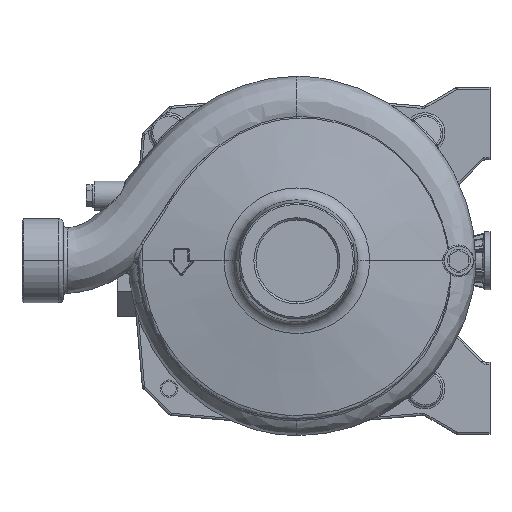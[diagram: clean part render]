
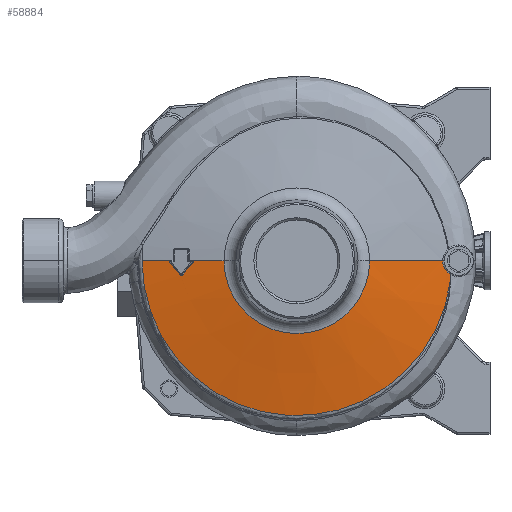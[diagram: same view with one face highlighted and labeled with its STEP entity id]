
A CAD part, left-side view. The second image highlights one B-rep face of the part: STEP entity #58884.
In plain terms, the highlighted conical face has half-angle 80 degrees and reference radius 78.683 mm.
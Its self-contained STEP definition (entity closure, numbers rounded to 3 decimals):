
#40440=CARTESIAN_POINT('',(-13.857,-106.12,
16.811));
#44654=DIRECTION('',(0.,0.985,0.174));
#44655=VECTOR('',#44654,51.261);
#44656=CARTESIAN_POINT('',(0.,-100.826,
17.903));
#44657=LINE('',#44656,#44655);
#44734=CARTESIAN_POINT('',(0.,88.098,
20.147));
#45054=CARTESIAN_POINT('',(0.,-100.826,
17.903));
#45055=CARTESIAN_POINT('',(-0.742,-100.827,
17.903));
#45056=CARTESIAN_POINT('',(-2.183,-100.971,
17.875));
#45057=CARTESIAN_POINT('',(-4.322,-101.634,
17.746));
#45058=CARTESIAN_POINT('',(-6.242,-102.687,
17.543));
#45059=CARTESIAN_POINT('',(-7.963,-104.141,
17.266));
#45060=CARTESIAN_POINT('',(-8.884,-105.315,
17.046));
#45061=CARTESIAN_POINT('',(-9.292,-105.964,
16.926));
#45063=CARTESIAN_POINT('',(-9.292,-105.964,
16.926));
#45064=CARTESIAN_POINT('',(-9.561,-105.973,
16.92));
#45065=CARTESIAN_POINT('',(-10.083,-105.99,
16.908));
#45066=CARTESIAN_POINT('',(-10.812,-106.013,
16.892));
#45067=CARTESIAN_POINT('',(-11.493,-106.035,
16.875));
#45068=CARTESIAN_POINT('',(-12.13,-106.055,
16.859));
#45069=CARTESIAN_POINT('',(-12.726,-106.076,
16.844));
#45070=CARTESIAN_POINT('',(-13.281,-106.096,
16.828));
#45071=CARTESIAN_POINT('',(-13.665,-106.112,
16.817));
#45072=CARTESIAN_POINT('',(-13.857,-106.12,
16.811));
#45074=CARTESIAN_POINT('',(0.,0.,16.811));
#45075=DIRECTION('',(0.,0.,1.));
#45076=DIRECTION('',(0.,1.,0.));
#45077=AXIS2_PLACEMENT_3D('',#45074,#45075,#45076);
#45079=DIRECTION('',(0.,-0.985,0.174));
#45080=VECTOR('',#45079,19.215);
#45081=CARTESIAN_POINT('',(0.,107.021,
16.811));
#45082=LINE('',#45081,#45080);
#45083=CARTESIAN_POINT('',(0.,88.098,
20.147));
#45084=CARTESIAN_POINT('',(-0.072,88.139,
20.14));
#45085=CARTESIAN_POINT('',(-0.221,88.203,
20.129));
#45086=CARTESIAN_POINT('',(-0.469,88.242,
20.122));
#45087=CARTESIAN_POINT('',(-0.715,88.219,
20.126));
#45088=CARTESIAN_POINT('',(-0.947,88.137,
20.14));
#45089=CARTESIAN_POINT('',(-1.08,88.05,
20.155));
#45090=CARTESIAN_POINT('',(-1.142,87.998,
20.164));
#45092=CARTESIAN_POINT('',(-1.142,87.998,
20.164));
#45093=CARTESIAN_POINT('',(-2.142,87.158,
20.31));
#45094=CARTESIAN_POINT('',(-4.119,85.497,
20.592));
#45095=CARTESIAN_POINT('',(-7.021,83.06,
20.987));
#45096=CARTESIAN_POINT('',(-8.916,81.468,
21.232));
#45097=CARTESIAN_POINT('',(-9.854,80.68,
21.35));
#45099=CARTESIAN_POINT('',(-9.854,80.68,
21.35));
#45100=CARTESIAN_POINT('',(-9.912,80.632,
21.357));
#45101=CARTESIAN_POINT('',(-10.016,80.523,
21.374));
#45102=CARTESIAN_POINT('',(-10.14,80.311,
21.408));
#45103=CARTESIAN_POINT('',(-10.21,80.069,
21.449));
#45104=CARTESIAN_POINT('',(-10.217,79.813,
21.493));
#45105=CARTESIAN_POINT('',(-10.158,79.56,
21.539));
#45106=CARTESIAN_POINT('',(-10.035,79.328,
21.582));
#45107=CARTESIAN_POINT('',(-9.92,79.203,
21.607));
#45108=CARTESIAN_POINT('',(-9.854,79.148,
21.618));
#45110=CARTESIAN_POINT('',(-9.854,79.148,
21.618));
#45111=CARTESIAN_POINT('',(-8.833,78.29,
21.79));
#45112=CARTESIAN_POINT('',(-6.827,76.605,
22.123));
#45113=CARTESIAN_POINT('',(-3.931,74.172,
22.588));
#45114=CARTESIAN_POINT('',(-2.061,72.601,
22.876));
#45115=CARTESIAN_POINT('',(-1.141,71.828,
23.015));
#45117=CARTESIAN_POINT('',(-1.141,71.828,
23.015));
#45118=CARTESIAN_POINT('',(-1.103,71.796,
23.02));
#45119=CARTESIAN_POINT('',(-1.019,71.735,
23.031));
#45120=CARTESIAN_POINT('',(-0.861,71.656,
23.046));
#45121=CARTESIAN_POINT('',(-0.672,71.602,
23.056));
#45122=CARTESIAN_POINT('',(-0.453,71.587,
23.059));
#45123=CARTESIAN_POINT('',(-0.219,71.625,
23.052));
#45124=CARTESIAN_POINT('',(-0.072,71.687,
23.041));
#45125=CARTESIAN_POINT('',(0.,71.728,
23.034));
#45127=DIRECTION('',(0.,-0.985,0.174));
#45128=VECTOR('',#45127,21.714);
#45129=CARTESIAN_POINT('',(0.,71.728,
23.034));
#45130=LINE('',#45129,#45128);
#45131=CARTESIAN_POINT('',(0.,0.,26.804));
#45132=DIRECTION('',(0.,0.,-1.));
#45133=DIRECTION('',(0.,-1.,0.));
#45134=AXIS2_PLACEMENT_3D('',#45131,#45132,#45133);
#46421=CARTESIAN_POINT('',(0.,-50.344,26.804));
#46422=CARTESIAN_POINT('',(0.,50.344,26.804));
#46423=VERTEX_POINT('',#46421);
#46424=VERTEX_POINT('',#46422);
#46497=VERTEX_POINT('',#45117);
#46498=VERTEX_POINT('',#45125);
#46523=VERTEX_POINT('',#44734);
#46525=VERTEX_POINT('',#45090);
#46527=VERTEX_POINT('',#45097);
#46529=VERTEX_POINT('',#45108);
#46531=CARTESIAN_POINT('',(0.,107.021,
16.811));
#46532=VERTEX_POINT('',#46531);
#46925=CARTESIAN_POINT('',(0.,-100.826,
17.903));
#46927=VERTEX_POINT('',#46925);
#46930=VERTEX_POINT('',#45061);
#47277=VERTEX_POINT('',#40440);
#58859=CARTESIAN_POINT('',(0.,0.,21.808));
#58860=DIRECTION('',(0.,0.,-1.));
#58861=DIRECTION('',(0.,-1.,0.));
#58862=AXIS2_PLACEMENT_3D('',#58859,#58860,#58861);
#58863=CONICAL_SURFACE('',#58862,78.683,80.);
#58864=ORIENTED_EDGE('',*,*,#58342,.T.);
#58865=ORIENTED_EDGE('',*,*,#47947,.T.);
#58866=ORIENTED_EDGE('',*,*,#48115,.F.);
#58867=ORIENTED_EDGE('',*,*,#58246,.T.);
#58869=ORIENTED_EDGE('',*,*,#58868,.T.);
#58871=ORIENTED_EDGE('',*,*,#58870,.T.);
#58873=ORIENTED_EDGE('',*,*,#58872,.T.);
#58875=ORIENTED_EDGE('',*,*,#58874,.T.);
#58877=ORIENTED_EDGE('',*,*,#58876,.T.);
#58878=ORIENTED_EDGE('',*,*,#58226,.T.);
#58880=ORIENTED_EDGE('',*,*,#58879,.F.);
#58881=ORIENTED_EDGE('',*,*,#58222,.F.);
#58882=EDGE_LOOP('',(#58864,#58865,#58866,#58867,#58869,#58871,#58873,#58875,
#58877,#58878,#58880,#58881));
#58883=FACE_OUTER_BOUND('',#58882,.F.);
#45062=B_SPLINE_CURVE_WITH_KNOTS('',3,(#45054,#45055,#45056,#45057,#45058,
#45059,#45060,#45061),.UNSPECIFIED.,.F.,.F.,(4,1,1,1,1,4),(0.,0.2,0.4,
0.6,0.8,1.),.UNSPECIFIED.);
#45073=B_SPLINE_CURVE_WITH_KNOTS('',3,(#45063,#45064,#45065,#45066,#45067,
#45068,#45069,#45070,#45071,#45072),.UNSPECIFIED.,.F.,.F.,(4,1,1,1,1,1,1,4),(
0.,0.143,0.286,0.429,0.571,
0.714,0.857,1.),.UNSPECIFIED.);
#45078=CIRCLE('',#45077,107.021);
#45091=B_SPLINE_CURVE_WITH_KNOTS('',3,(#45083,#45084,#45085,#45086,#45087,
#45088,#45089,#45090),.UNSPECIFIED.,.F.,.F.,(4,1,1,1,1,4),(0.,0.2,0.4,
0.6,0.8,1.),.UNSPECIFIED.);
#45098=B_SPLINE_CURVE_WITH_KNOTS('',3,(#45092,#45093,#45094,#45095,#45096,
#45097),.UNSPECIFIED.,.F.,.F.,(4,1,1,4),(0.,0.333,
0.667,1.),.UNSPECIFIED.);
#45109=B_SPLINE_CURVE_WITH_KNOTS('',3,(#45099,#45100,#45101,#45102,#45103,
#45104,#45105,#45106,#45107,#45108),.UNSPECIFIED.,.F.,.F.,(4,1,1,1,1,1,1,4),(
0.,0.143,0.286,0.429,0.571,
0.714,0.857,1.),.UNSPECIFIED.);
#45116=B_SPLINE_CURVE_WITH_KNOTS('',3,(#45110,#45111,#45112,#45113,#45114,
#45115),.UNSPECIFIED.,.F.,.F.,(4,1,1,4),(0.,0.333,
0.667,1.),.UNSPECIFIED.);
#45126=B_SPLINE_CURVE_WITH_KNOTS('',3,(#45117,#45118,#45119,#45120,#45121,
#45122,#45123,#45124,#45125),.UNSPECIFIED.,.F.,.F.,(4,1,1,1,1,1,4),(0.,
0.167,0.333,0.5,0.667,0.833,
1.),.UNSPECIFIED.);
#45135=CIRCLE('',#45134,50.344);
#47947=EDGE_CURVE('',#46930,#47277,#45073,.T.);
#48115=EDGE_CURVE('',#46532,#47277,#45078,.T.);
#58222=EDGE_CURVE('',#46927,#46423,#44657,.T.);
#58226=EDGE_CURVE('',#46498,#46424,#45130,.T.);
#58246=EDGE_CURVE('',#46532,#46523,#45082,.T.);
#58342=EDGE_CURVE('',#46927,#46930,#45062,.T.);
#58868=EDGE_CURVE('',#46523,#46525,#45091,.T.);
#58870=EDGE_CURVE('',#46525,#46527,#45098,.T.);
#58872=EDGE_CURVE('',#46527,#46529,#45109,.T.);
#58874=EDGE_CURVE('',#46529,#46497,#45116,.T.);
#58876=EDGE_CURVE('',#46497,#46498,#45126,.T.);
#58879=EDGE_CURVE('',#46423,#46424,#45135,.T.);
#58884=ADVANCED_FACE('',(#58883),#58863,.T.);
